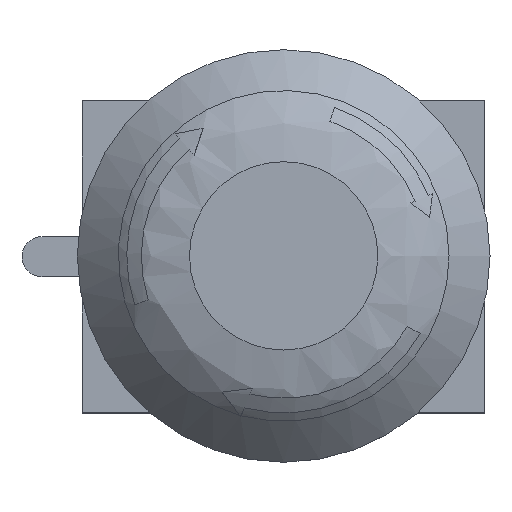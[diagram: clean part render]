
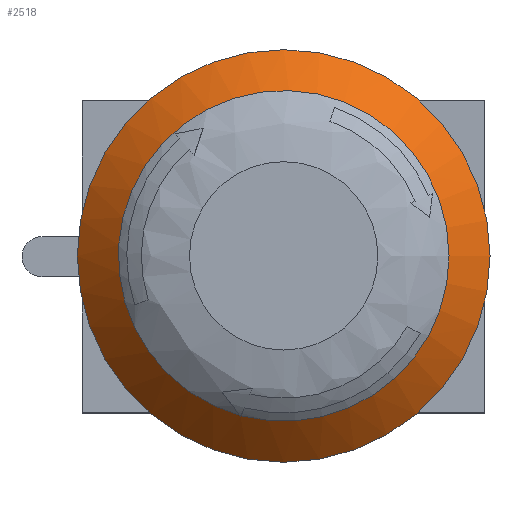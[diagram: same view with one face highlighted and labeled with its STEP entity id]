
A CAD part, top view. The second image highlights one B-rep face of the part: STEP entity #2518.
In plain terms, the highlighted conical face has half-angle 45 degrees and reference radius 17 mm.
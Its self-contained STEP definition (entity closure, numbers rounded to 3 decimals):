
#13=(
BOUNDED_CURVE()
B_SPLINE_CURVE(2,(#4264,#4265,#4266),.UNSPECIFIED.,.F.,.F.)
B_SPLINE_CURVE_WITH_KNOTS((3,3),(0.,0.017),.UNSPECIFIED.)
CURVE()
GEOMETRIC_REPRESENTATION_ITEM()
RATIONAL_B_SPLINE_CURVE((1.,1.,1.))
REPRESENTATION_ITEM('')
);
#16=CONICAL_SURFACE('',#2785,17.,45.);
#35=FACE_BOUND('',#511,.T.);
#150=CIRCLE('',#2786,16.429);
#151=CIRCLE('',#2787,16.429);
#152=CIRCLE('',#2788,20.5);
#364=FACE_OUTER_BOUND('',#510,.T.);
#510=EDGE_LOOP('',(#2252,#2253,#2254,#2255));
#511=EDGE_LOOP('',(#2256));
#745=LINE('',#4259,#971);
#971=VECTOR('',#3470,10.);
#1196=VERTEX_POINT('',#4256);
#1197=VERTEX_POINT('',#4258);
#1198=VERTEX_POINT('',#4262);
#1213=VERTEX_POINT('',#4325);
#1214=VERTEX_POINT('',#4328);
#1544=EDGE_CURVE('',#1197,#1196,#745,.T.);
#1547=EDGE_CURVE('',#1196,#1198,#13,.T.);
#1569=EDGE_CURVE('',#1213,#1198,#150,.T.);
#1570=EDGE_CURVE('',#1197,#1213,#151,.T.);
#1571=EDGE_CURVE('',#1214,#1214,#152,.T.);
#2252=ORIENTED_EDGE('',*,*,#1544,.T.);
#2253=ORIENTED_EDGE('',*,*,#1547,.T.);
#2254=ORIENTED_EDGE('',*,*,#1569,.F.);
#2255=ORIENTED_EDGE('',*,*,#1570,.F.);
#2256=ORIENTED_EDGE('',*,*,#1571,.T.);
#2518=ADVANCED_FACE('',(#364,#35),#16,.T.);
#2785=AXIS2_PLACEMENT_3D('',#4324,#3522,#3523);
#2786=AXIS2_PLACEMENT_3D('',#4326,#3524,#3525);
#2787=AXIS2_PLACEMENT_3D('',#4327,#3526,#3527);
#2788=AXIS2_PLACEMENT_3D('',#4329,#3528,#3529);
#3470=DIRECTION('',(-0.277,-0.654,-0.704));
#3522=DIRECTION('center_axis',(0.,0.,-1.));
#3523=DIRECTION('ref_axis',(-1.,0.,0.));
#3524=DIRECTION('center_axis',(0.,0.,1.));
#3525=DIRECTION('ref_axis',(-1.,0.,0.));
#3526=DIRECTION('center_axis',(0.,0.,1.));
#3527=DIRECTION('ref_axis',(-1.,0.,0.));
#3528=DIRECTION('center_axis',(0.,0.,1.));
#3529=DIRECTION('ref_axis',(-1.,0.,0.));
#4256=CARTESIAN_POINT('',(-4.279,-15.952,79.984));
#4258=CARTESIAN_POINT('',(-4.245,-15.871,80.071));
#4259=CARTESIAN_POINT('',(-4.262,-15.912,80.027));
#4262=CARTESIAN_POINT('',(-4.366,-15.838,80.071));
#4264=CARTESIAN_POINT('Ctrl Pts',(-4.279,-15.952,79.984));
#4265=CARTESIAN_POINT('Ctrl Pts',(-4.323,-15.895,80.028));
#4266=CARTESIAN_POINT('Ctrl Pts',(-4.366,-15.838,80.071));
#4324=CARTESIAN_POINT('Origin',(0.,0.,79.5));
#4325=CARTESIAN_POINT('',(16.429,0.,80.071));
#4326=CARTESIAN_POINT('Origin',(0.,0.,80.071));
#4327=CARTESIAN_POINT('Origin',(0.,0.,80.071));
#4328=CARTESIAN_POINT('',(20.5,0.,76.));
#4329=CARTESIAN_POINT('Origin',(0.,0.,76.));
